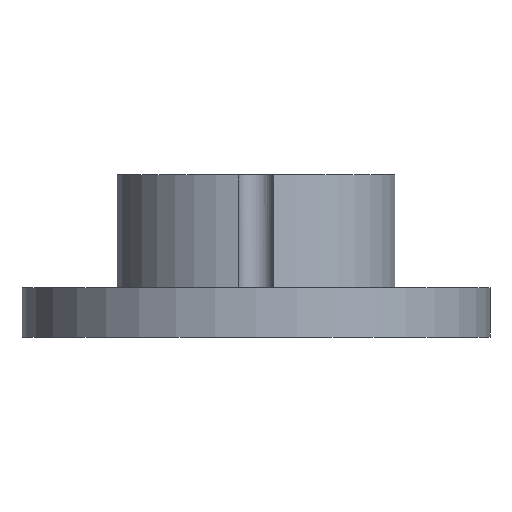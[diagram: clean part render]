
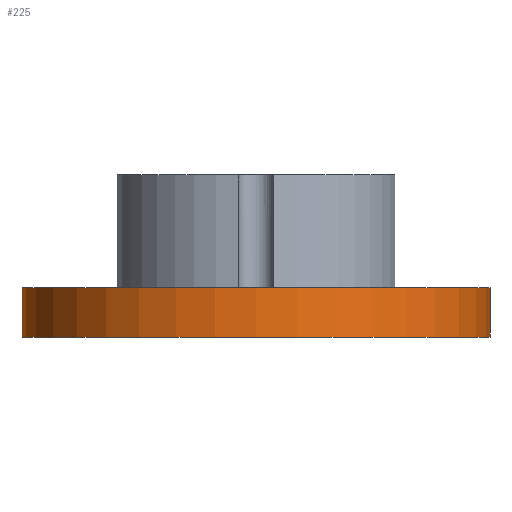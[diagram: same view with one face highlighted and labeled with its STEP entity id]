
A CAD part, front view. The second image highlights one B-rep face of the part: STEP entity #225.
In plain terms, the highlighted cylindrical face has radius 55.45 mm (diameter 110.9 mm), a full revolution.
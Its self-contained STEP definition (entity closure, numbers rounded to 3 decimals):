
#21 = EDGE_CURVE('',#22,#22,#24,.T.);
#22 = VERTEX_POINT('',#23);
#23 = CARTESIAN_POINT('',(55.45,0.,0.));
#24 = SURFACE_CURVE('',#25,(#30,#42),.PCURVE_S1.);
#25 = CIRCLE('',#26,55.45);
#26 = AXIS2_PLACEMENT_3D('',#27,#28,#29);
#27 = CARTESIAN_POINT('',(0.,0.,0.));
#28 = DIRECTION('',(0.,0.,1.));
#29 = DIRECTION('',(1.,0.,-0.));
#30 = PCURVE('',#31,#36);
#31 = PLANE('',#32);
#32 = AXIS2_PLACEMENT_3D('',#33,#34,#35);
#33 = CARTESIAN_POINT('',(0.,0.,0.));
#34 = DIRECTION('',(0.,0.,1.));
#35 = DIRECTION('',(1.,0.,-0.));
#36 = DEFINITIONAL_REPRESENTATION('',(#37),#41);
#37 = CIRCLE('',#38,55.45);
#38 = AXIS2_PLACEMENT_2D('',#39,#40);
#39 = CARTESIAN_POINT('',(0.,0.));
#40 = DIRECTION('',(1.,-0.));
#41 = ( GEOMETRIC_REPRESENTATION_CONTEXT(2) 
PARAMETRIC_REPRESENTATION_CONTEXT() REPRESENTATION_CONTEXT('2D SPACE',''
  ) );
#42 = PCURVE('',#43,#48);
#43 = CYLINDRICAL_SURFACE('',#44,55.45);
#44 = AXIS2_PLACEMENT_3D('',#45,#46,#47);
#45 = CARTESIAN_POINT('',(0.,0.,0.));
#46 = DIRECTION('',(0.,0.,1.));
#47 = DIRECTION('',(1.,0.,-0.));
#48 = DEFINITIONAL_REPRESENTATION('',(#49),#53);
#49 = LINE('',#50,#51);
#50 = CARTESIAN_POINT('',(0.,0.));
#51 = VECTOR('',#52,1.);
#52 = DIRECTION('',(1.,0.));
#53 = ( GEOMETRIC_REPRESENTATION_CONTEXT(2) 
PARAMETRIC_REPRESENTATION_CONTEXT() REPRESENTATION_CONTEXT('2D SPACE',''
  ) );
#225 = ADVANCED_FACE('',(#226),#43,.T.);
#226 = FACE_BOUND('',#227,.T.);
#227 = EDGE_LOOP('',(#228,#229,#252,#279));
#228 = ORIENTED_EDGE('',*,*,#21,.T.);
#229 = ORIENTED_EDGE('',*,*,#230,.T.);
#230 = EDGE_CURVE('',#22,#231,#233,.T.);
#231 = VERTEX_POINT('',#232);
#232 = CARTESIAN_POINT('',(55.45,0.,11.7));
#233 = SEAM_CURVE('',#234,(#238,#245),.PCURVE_S1.);
#234 = LINE('',#235,#236);
#235 = CARTESIAN_POINT('',(55.45,0.,0.));
#236 = VECTOR('',#237,1.);
#237 = DIRECTION('',(0.,0.,1.));
#238 = PCURVE('',#43,#239);
#239 = DEFINITIONAL_REPRESENTATION('',(#240),#244);
#240 = LINE('',#241,#242);
#241 = CARTESIAN_POINT('',(0.,0.));
#242 = VECTOR('',#243,1.);
#243 = DIRECTION('',(0.,1.));
#244 = ( GEOMETRIC_REPRESENTATION_CONTEXT(2) 
PARAMETRIC_REPRESENTATION_CONTEXT() REPRESENTATION_CONTEXT('2D SPACE',''
  ) );
#245 = PCURVE('',#43,#246);
#246 = DEFINITIONAL_REPRESENTATION('',(#247),#251);
#247 = LINE('',#248,#249);
#248 = CARTESIAN_POINT('',(6.283,0.));
#249 = VECTOR('',#250,1.);
#250 = DIRECTION('',(0.,1.));
#251 = ( GEOMETRIC_REPRESENTATION_CONTEXT(2) 
PARAMETRIC_REPRESENTATION_CONTEXT() REPRESENTATION_CONTEXT('2D SPACE',''
  ) );
#252 = ORIENTED_EDGE('',*,*,#253,.F.);
#253 = EDGE_CURVE('',#231,#231,#254,.T.);
#254 = SURFACE_CURVE('',#255,(#260,#267),.PCURVE_S1.);
#255 = CIRCLE('',#256,55.45);
#256 = AXIS2_PLACEMENT_3D('',#257,#258,#259);
#257 = CARTESIAN_POINT('',(0.,0.,11.7));
#258 = DIRECTION('',(0.,0.,1.));
#259 = DIRECTION('',(1.,0.,-0.));
#260 = PCURVE('',#43,#261);
#261 = DEFINITIONAL_REPRESENTATION('',(#262),#266);
#262 = LINE('',#263,#264);
#263 = CARTESIAN_POINT('',(0.,11.7));
#264 = VECTOR('',#265,1.);
#265 = DIRECTION('',(1.,0.));
#266 = ( GEOMETRIC_REPRESENTATION_CONTEXT(2) 
PARAMETRIC_REPRESENTATION_CONTEXT() REPRESENTATION_CONTEXT('2D SPACE',''
  ) );
#267 = PCURVE('',#268,#273);
#268 = PLANE('',#269);
#269 = AXIS2_PLACEMENT_3D('',#270,#271,#272);
#270 = CARTESIAN_POINT('',(0.,0.,11.7));
#271 = DIRECTION('',(0.,0.,1.));
#272 = DIRECTION('',(1.,0.,-0.));
#273 = DEFINITIONAL_REPRESENTATION('',(#274),#278);
#274 = CIRCLE('',#275,55.45);
#275 = AXIS2_PLACEMENT_2D('',#276,#277);
#276 = CARTESIAN_POINT('',(0.,0.));
#277 = DIRECTION('',(1.,0.));
#278 = ( GEOMETRIC_REPRESENTATION_CONTEXT(2) 
PARAMETRIC_REPRESENTATION_CONTEXT() REPRESENTATION_CONTEXT('2D SPACE',''
  ) );
#279 = ORIENTED_EDGE('',*,*,#230,.F.);
